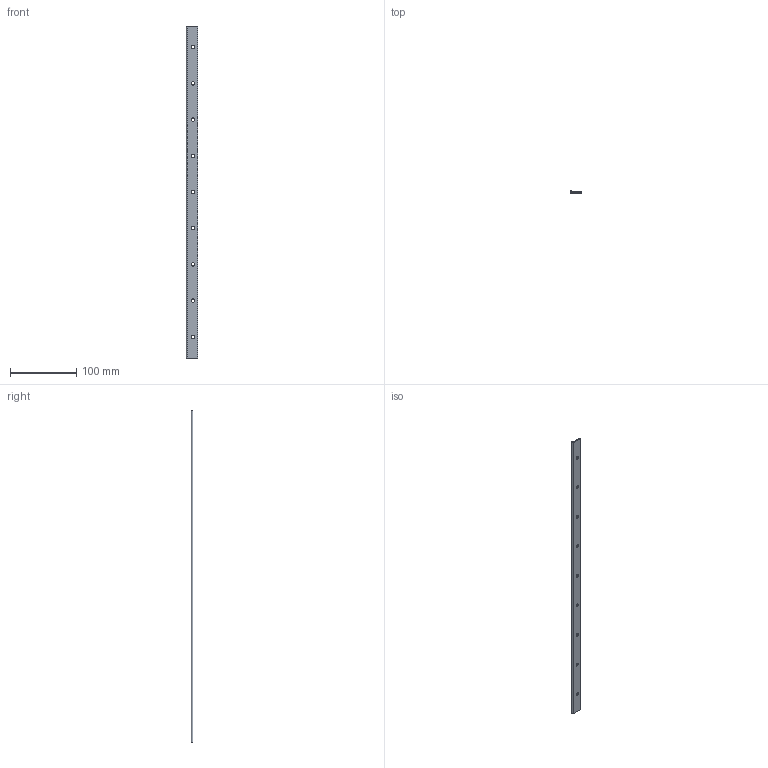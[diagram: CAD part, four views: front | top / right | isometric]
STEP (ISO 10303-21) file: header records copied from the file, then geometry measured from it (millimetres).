
FILE_DESCRIPTION (( 'STEP AP203' ), '1' );
FILE_NAME ('Charnière_600.STEP', '2026-06-24T07:29:51', ( '' ), ( '' ), 'SwSTEP 2.0', 'SolidWorks 2024', '' );
FILE_SCHEMA (( 'CONFIG_CONTROL_DESIGN' ));
Length unit declared in the file: millimetre
Products named in the file (1): Charnière_600_500
Bounding box: 17.5 x 3 x 500 mm (x, y, z)
Volume: 14385.6 mm3; surface area: 19451.5 mm2
Topology: 1 solids, 1 shells, 15 faces, 39 edges, 26 vertices
Faces by surface type: cylinder 10, plane 5
Full cylindrical faces by diameter (mm): 5 x9
Entity records: 539 total; most frequent: DIRECTION 82, CARTESIAN_POINT 72, ORIENTED_EDGE 60, EDGE_LOOP 42, AXIS2_PLACEMENT_3D 36, EDGE_CURVE 30, VERTEX_POINT 26, FACE_OUTER_BOUND 24
